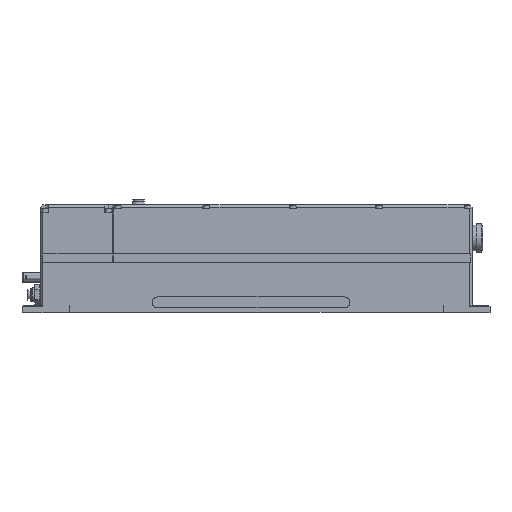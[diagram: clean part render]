
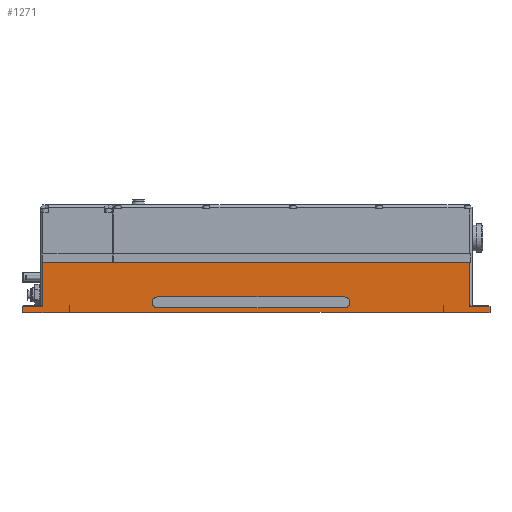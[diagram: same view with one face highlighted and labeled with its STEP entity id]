
A CAD part, front view. The second image highlights one B-rep face of the part: STEP entity #1271.
In plain terms, the highlighted planar face has unit normal (0, -1, 0).
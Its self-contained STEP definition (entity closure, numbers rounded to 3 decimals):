
#1012=CARTESIAN_POINT('',(-622.0,0.,8.5));
#1013=VERTEX_POINT('',#1012);
#1030=CARTESIAN_POINT('',(-650.0,0.,8.5));
#1031=VERTEX_POINT('',#1030);
#1038=CARTESIAN_POINT('',(-650.0,0.,8.5));
#1039=DIRECTION('',(1.0,0.0,0.0));
#1040=VECTOR('',#1039,28.0);
#1041=LINE('',#1038,#1040);
#1042=EDGE_CURVE('',#1031,#1013,#1041,.T.);
#1109=CARTESIAN_POINT('',(0.0,0.0,0.0));
#1110=DIRECTION('',(0.0,-1.0,0.0));
#1111=DIRECTION('',(0.0,0.0,-1.0));
#1112=AXIS2_PLACEMENT_3D('',#1109,#1110,#1111);
#1113=PLANE('',#1112);
#1114=CARTESIAN_POINT('',(-622.0,0.,70.));
#1115=VERTEX_POINT('',#1114);
#1116=CARTESIAN_POINT('',(-622.0,0.,8.5));
#1117=DIRECTION('',(0.0,0.0,1.0));
#1118=VECTOR('',#1117,61.5);
#1119=LINE('',#1116,#1118);
#1120=EDGE_CURVE('',#1013,#1115,#1119,.T.);
#1121=ORIENTED_EDGE('',*,*,#1120,.F.);
#1122=ORIENTED_EDGE('',*,*,#1042,.F.);
#1123=CARTESIAN_POINT('',(-650.0,0.,0.0));
#1124=VERTEX_POINT('',#1123);
#1125=CARTESIAN_POINT('',(-650.0,0.,0.0));
#1126=DIRECTION('',(0.0,0.0,1.0));
#1127=VECTOR('',#1126,8.5);
#1128=LINE('',#1125,#1127);
#1129=EDGE_CURVE('',#1124,#1031,#1128,.T.);
#1130=ORIENTED_EDGE('',*,*,#1129,.F.);
#1131=CARTESIAN_POINT('',(-585.1,0.,0.0));
#1132=VERTEX_POINT('',#1131);
#1133=CARTESIAN_POINT('',(-585.1,0.,0.0));
#1134=DIRECTION('',(-1.0,0.0,0.0));
#1135=VECTOR('',#1134,64.9);
#1136=LINE('',#1133,#1135);
#1137=EDGE_CURVE('',#1132,#1124,#1136,.T.);
#1138=ORIENTED_EDGE('',*,*,#1137,.F.);
#1139=CARTESIAN_POINT('',(-585.1,0.,10.0));
#1140=VERTEX_POINT('',#1139);
#1141=CARTESIAN_POINT('',(-585.1,0.,0.0));
#1142=DIRECTION('',(0.0,0.0,1.0));
#1143=VECTOR('',#1142,10.0);
#1144=LINE('',#1141,#1143);
#1145=EDGE_CURVE('',#1132,#1140,#1144,.T.);
#1146=ORIENTED_EDGE('',*,*,#1145,.T.);
#1147=CARTESIAN_POINT('',(-585.,0.,10.0));
#1148=VERTEX_POINT('',#1147);
#1149=CARTESIAN_POINT('',(-585.1,0.,10.0));
#1150=DIRECTION('',(1.0,0.0,0.0));
#1151=VECTOR('',#1150,0.1);
#1152=LINE('',#1149,#1151);
#1153=EDGE_CURVE('',#1140,#1148,#1152,.T.);
#1154=ORIENTED_EDGE('',*,*,#1153,.T.);
#1155=CARTESIAN_POINT('',(-585.,0.,0.5));
#1156=VERTEX_POINT('',#1155);
#1157=CARTESIAN_POINT('',(-585.,0.,10.0));
#1158=DIRECTION('',(0.0,0.0,-1.0));
#1159=VECTOR('',#1158,9.5);
#1160=LINE('',#1157,#1159);
#1161=EDGE_CURVE('',#1148,#1156,#1160,.T.);
#1162=ORIENTED_EDGE('',*,*,#1161,.T.);
#1163=CARTESIAN_POINT('',(-65.0,0.,0.5));
#1164=VERTEX_POINT('',#1163);
#1165=CARTESIAN_POINT('',(-585.0,0.,0.5));
#1166=DIRECTION('',(1.0,0.0,0.0));
#1167=VECTOR('',#1166,520.0);
#1168=LINE('',#1165,#1167);
#1169=EDGE_CURVE('',#1156,#1164,#1168,.T.);
#1170=ORIENTED_EDGE('',*,*,#1169,.T.);
#1171=CARTESIAN_POINT('',(-65.0,0.,10.0));
#1172=VERTEX_POINT('',#1171);
#1173=CARTESIAN_POINT('',(-65.0,0.,0.5));
#1174=DIRECTION('',(0.0,0.0,1.0));
#1175=VECTOR('',#1174,9.5);
#1176=LINE('',#1173,#1175);
#1177=EDGE_CURVE('',#1164,#1172,#1176,.T.);
#1178=ORIENTED_EDGE('',*,*,#1177,.T.);
#1179=CARTESIAN_POINT('',(-64.9,0.,10.0));
#1180=VERTEX_POINT('',#1179);
#1181=CARTESIAN_POINT('',(-65.0,0.,10.0));
#1182=DIRECTION('',(1.0,0.0,0.0));
#1183=VECTOR('',#1182,0.1);
#1184=LINE('',#1181,#1183);
#1185=EDGE_CURVE('',#1172,#1180,#1184,.T.);
#1186=ORIENTED_EDGE('',*,*,#1185,.T.);
#1187=CARTESIAN_POINT('',(-64.9,0.,0.0));
#1188=VERTEX_POINT('',#1187);
#1189=CARTESIAN_POINT('',(-64.9,0.0,10.0));
#1190=DIRECTION('',(0.0,0.0,-1.0));
#1191=VECTOR('',#1190,10.0);
#1192=LINE('',#1189,#1191);
#1193=EDGE_CURVE('',#1180,#1188,#1192,.T.);
#1194=ORIENTED_EDGE('',*,*,#1193,.T.);
#1195=CARTESIAN_POINT('',(0.0,0.0,0.0));
#1196=VERTEX_POINT('',#1195);
#1197=CARTESIAN_POINT('',(0.0,0.0,0.0));
#1198=DIRECTION('',(-1.0,0.0,0.0));
#1199=VECTOR('',#1198,64.9);
#1200=LINE('',#1197,#1199);
#1201=EDGE_CURVE('',#1196,#1188,#1200,.T.);
#1202=ORIENTED_EDGE('',*,*,#1201,.F.);
#1203=CARTESIAN_POINT('',(0.0,0.0,8.5));
#1204=VERTEX_POINT('',#1203);
#1205=CARTESIAN_POINT('',(0.0,0.0,0.0));
#1206=DIRECTION('',(0.0,0.0,1.0));
#1207=VECTOR('',#1206,8.5);
#1208=LINE('',#1205,#1207);
#1209=EDGE_CURVE('',#1196,#1204,#1208,.T.);
#1210=ORIENTED_EDGE('',*,*,#1209,.T.);
#1211=CARTESIAN_POINT('',(-28.,0.,8.5));
#1212=VERTEX_POINT('',#1211);
#1213=CARTESIAN_POINT('',(-28.,0.,8.5));
#1214=DIRECTION('',(1.0,0.0,0.0));
#1215=VECTOR('',#1214,28.);
#1216=LINE('',#1213,#1215);
#1217=EDGE_CURVE('',#1212,#1204,#1216,.T.);
#1218=ORIENTED_EDGE('',*,*,#1217,.F.);
#1219=CARTESIAN_POINT('',(-28.,0.,70.));
#1220=VERTEX_POINT('',#1219);
#1221=CARTESIAN_POINT('',(-28.,0.,70.));
#1222=DIRECTION('',(0.0,0.0,-1.0));
#1223=VECTOR('',#1222,61.5);
#1224=LINE('',#1221,#1223);
#1225=EDGE_CURVE('',#1220,#1212,#1224,.T.);
#1226=ORIENTED_EDGE('',*,*,#1225,.F.);
#1227=CARTESIAN_POINT('',(-28.,0.,70.));
#1228=DIRECTION('',(-1.0,0.0,0.0));
#1229=VECTOR('',#1228,594.0);
#1230=LINE('',#1227,#1229);
#1231=EDGE_CURVE('',#1220,#1115,#1230,.T.);
#1232=ORIENTED_EDGE('',*,*,#1231,.T.);
#1233=EDGE_LOOP('',(#1121,#1122,#1130,#1138,#1146,#1154,#1162,#1170,#1178,#1186,#1194,#1202,#1210,#1218,#1226,#1232));
#1234=FACE_OUTER_BOUND('',#1233,.T.);
#1235=CARTESIAN_POINT('',(-462.5,0.,7.));
#1236=VERTEX_POINT('',#1235);
#1237=CARTESIAN_POINT('',(-462.5,0.,22.0));
#1238=VERTEX_POINT('',#1237);
#1239=CARTESIAN_POINT('',(-462.5,0.0,14.5));
#1240=DIRECTION('',(0.0,1.0,0.0));
#1241=DIRECTION('',(1.0,0.0,0.0));
#1242=AXIS2_PLACEMENT_3D('',#1239,#1240,#1241);
#1243=CIRCLE('',#1242,7.5);
#1244=EDGE_CURVE('',#1236,#1238,#1243,.T.);
#1245=ORIENTED_EDGE('',*,*,#1244,.T.);
#1246=CARTESIAN_POINT('',(-202.5,0.,22.0));
#1247=VERTEX_POINT('',#1246);
#1248=CARTESIAN_POINT('',(-462.5,0.,22.0));
#1249=DIRECTION('',(1.0,0.0,0.0));
#1250=VECTOR('',#1249,260.0);
#1251=LINE('',#1248,#1250);
#1252=EDGE_CURVE('',#1238,#1247,#1251,.T.);
#1253=ORIENTED_EDGE('',*,*,#1252,.T.);
#1254=CARTESIAN_POINT('',(-202.5,0.,7.));
#1255=VERTEX_POINT('',#1254);
#1256=CARTESIAN_POINT('',(-202.5,0.0,14.5));
#1257=DIRECTION('',(0.0,1.0,0.0));
#1258=DIRECTION('',(-1.0,0.0,0.0));
#1259=AXIS2_PLACEMENT_3D('',#1256,#1257,#1258);
#1260=CIRCLE('',#1259,7.5);
#1261=EDGE_CURVE('',#1247,#1255,#1260,.T.);
#1262=ORIENTED_EDGE('',*,*,#1261,.T.);
#1263=CARTESIAN_POINT('',(-202.5,0.,7.));
#1264=DIRECTION('',(-1.0,0.0,0.0));
#1265=VECTOR('',#1264,260.0);
#1266=LINE('',#1263,#1265);
#1267=EDGE_CURVE('',#1255,#1236,#1266,.T.);
#1268=ORIENTED_EDGE('',*,*,#1267,.T.);
#1269=EDGE_LOOP('',(#1245,#1253,#1262,#1268));
#1270=FACE_BOUND('',#1269,.T.);
#1271=ADVANCED_FACE('',(#1234,#1270),#1113,.T.);
